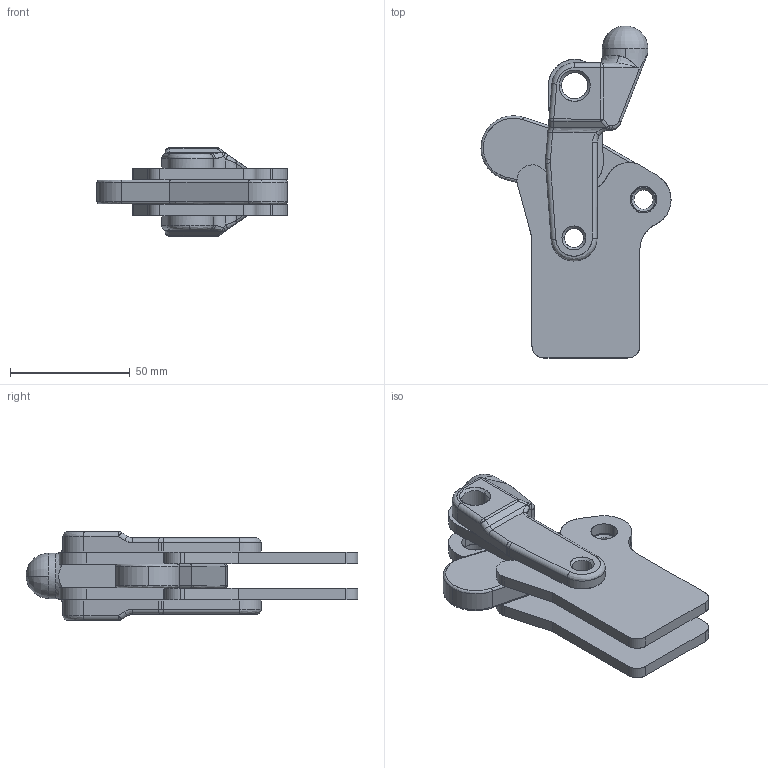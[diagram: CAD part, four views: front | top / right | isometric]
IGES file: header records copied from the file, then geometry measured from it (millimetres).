
Start section: SolidWorks IGES file using analytic representation for surfaces
Global section: file name: D:\GH Files\GH-SW-FILES\GH7\70305,310,315\GH-70315.IGS; native system: SolidWorks 2006 by SolidWorks Corporation; preprocessor: SolidWorks 2006 by SolidWorks Corporation; author: Administrator; date: 060705.114127; units: millimetre
Bounding box: 79.28 x 138.41 x 37 mm (x, y, z)
Surface area: 41012.1 mm2 (no closed solid volume)
Topology: 0 solids, 0 shells, 243 faces, 2887 edges, 2882 vertices
Faces by surface type: revolution 132, bspline 111
